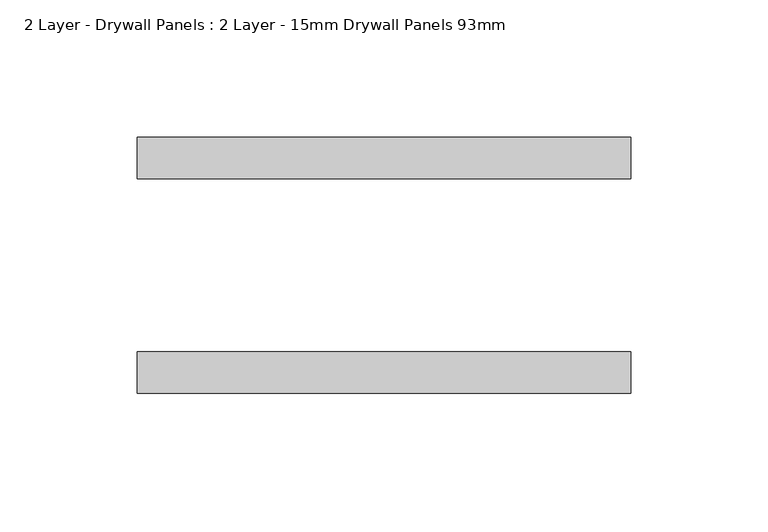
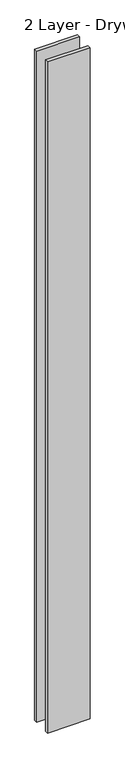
"""IFC4 building model written with IfcOpenShell, lengths in millimetres: plate geometry, 2 Layer - Drywall Panels : 2 Layer - 15mm Drywall Panels 93mm."""

from ifc_helpers import new_model, si_unit, origin, origin_with_axes, place, context, project, spatial, polyline, outline, extrude, source, transform, mapped, element, save


def plate_2_layer_drywall_panels_2_layer_15mm_drywall_panels_d108bd86(model_context):
    return source(origin(), model_context, "Body", "SweptSolid", [
        extrude(outline(polyline([(89.6999998, 31.5), (-89.6999998, 31.5), (-89.6999998, 46.5), (89.6999998, 46.5), (89.6999998, 31.5)])), origin_with_axes(), (0.0, 0.0, 1.0), 2979.4),
        extrude(outline(polyline([(89.6999998, -31.5), (89.6999998, -46.5), (-89.6999998, -46.5), (-89.6999998, -31.5), (89.6999998, -31.5)])), origin_with_axes(), (0.0, 0.0, 1.0), 2979.4),
    ])


if __name__ == "__main__":
    model = new_model("IFC4")
    model_context = context("Model", 3, world=origin())
    ifc_project = project(units=[si_unit("LENGTHUNIT", "METRE", prefix="MILLI")], contexts=[model_context])
    site = spatial("IfcSite", under=ifc_project)
    building = spatial("IfcBuilding", under=site)
    placement = place(None, origin())
    plate_2_layer_drywall_panels_2_layer_15mm_drywall_panels_shape = plate_2_layer_drywall_panels_2_layer_15mm_drywall_panels_d108bd86(model_context)
    element("IfcPlate", 1, ObjectType="2 Layer - Drywall Panels : 2 Layer - 15mm Drywall Panels 93mm", at=placement, inside=building, context=model_context, shape_type="MappedRepresentation", body=[
        mapped(plate_2_layer_drywall_panels_2_layer_15mm_drywall_panels_shape, transform((0.0, 0.0, 0.0), x_axis=(1.0, 0.0, 0.0), y_axis=(0.0, 1.0, 0.0), z_axis=(0.0, 0.0, 1.0))),
    ])
    save(model, "model.ifc")
